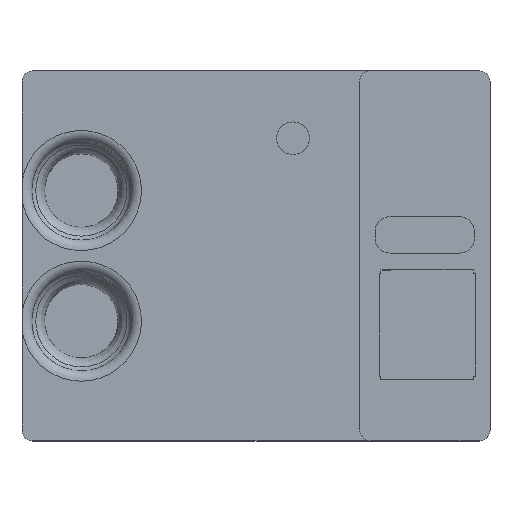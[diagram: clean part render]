
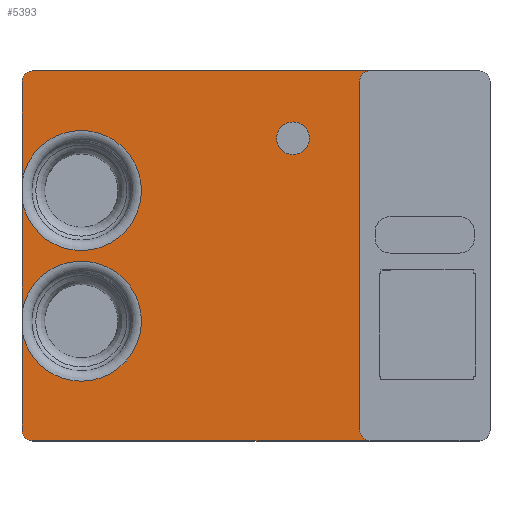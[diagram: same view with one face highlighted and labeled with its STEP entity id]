
A CAD part, top view. The second image highlights one B-rep face of the part: STEP entity #5393.
In plain terms, the highlighted planar face has unit normal (0, 0, 1).
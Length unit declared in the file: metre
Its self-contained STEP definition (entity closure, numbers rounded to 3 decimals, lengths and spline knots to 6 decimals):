
#103=PLANE('',#5703);
#288=B_SPLINE_CURVE_WITH_KNOTS('',3,(#12331,#12332,#12333,#12334,#12335),
 .UNSPECIFIED.,.F.,.F.,(4,1,4),(270.,315.,360.),.UNSPECIFIED.);
#675=LINE('',#12304,#1009);
#676=LINE('',#12309,#1010);
#677=LINE('',#12313,#1011);
#678=LINE('',#12317,#1012);
#679=LINE('',#12321,#1013);
#680=LINE('',#12325,#1014);
#681=LINE('',#12329,#1015);
#682=LINE('',#12337,#1016);
#1009=VECTOR('',#6449,1.);
#1010=VECTOR('',#6452,1.);
#1011=VECTOR('',#6455,1.);
#1012=VECTOR('',#6458,1.);
#1013=VECTOR('',#6461,1.);
#1014=VECTOR('',#6464,1.);
#1015=VECTOR('',#6467,1.);
#1016=VECTOR('',#6468,1.);
#1921=ORIENTED_EDGE('',*,*,#3273,.F.);
#1922=ORIENTED_EDGE('',*,*,#3274,.T.);
#1923=ORIENTED_EDGE('',*,*,#3275,.T.);
#1924=ORIENTED_EDGE('',*,*,#3276,.T.);
#1925=ORIENTED_EDGE('',*,*,#3277,.T.);
#1926=ORIENTED_EDGE('',*,*,#3278,.T.);
#1927=ORIENTED_EDGE('',*,*,#3279,.T.);
#1928=ORIENTED_EDGE('',*,*,#3280,.T.);
#1929=ORIENTED_EDGE('',*,*,#3281,.T.);
#1930=ORIENTED_EDGE('',*,*,#3282,.T.);
#1931=ORIENTED_EDGE('',*,*,#3283,.T.);
#1932=ORIENTED_EDGE('',*,*,#3284,.T.);
#1933=ORIENTED_EDGE('',*,*,#3285,.T.);
#1934=ORIENTED_EDGE('',*,*,#3286,.T.);
#1935=ORIENTED_EDGE('',*,*,#3287,.T.);
#1936=ORIENTED_EDGE('',*,*,#3288,.F.);
#1937=ORIENTED_EDGE('',*,*,#3271,.F.);
#3271=EDGE_CURVE('',#4049,#4049,#4516,.T.);
#3273=EDGE_CURVE('',#4051,#4052,#675,.F.);
#3274=EDGE_CURVE('',#4051,#4053,#4518,.T.);
#3275=EDGE_CURVE('',#4053,#4054,#676,.F.);
#3276=EDGE_CURVE('',#4054,#4055,#4519,.F.);
#3277=EDGE_CURVE('',#4055,#4056,#677,.T.);
#3278=EDGE_CURVE('',#4056,#4057,#4520,.F.);
#3279=EDGE_CURVE('',#4057,#4058,#678,.T.);
#3280=EDGE_CURVE('',#4058,#4059,#4521,.F.);
#3281=EDGE_CURVE('',#4059,#4060,#679,.T.);
#3282=EDGE_CURVE('',#4060,#4061,#4522,.F.);
#3283=EDGE_CURVE('',#4061,#4062,#680,.T.);
#3284=EDGE_CURVE('',#4062,#4063,#4523,.F.);
#3285=EDGE_CURVE('',#4063,#4064,#681,.F.);
#3286=EDGE_CURVE('',#4064,#4065,#288,.T.);
#3287=EDGE_CURVE('',#4065,#4066,#682,.F.);
#3288=EDGE_CURVE('',#4052,#4066,#4524,.F.);
#4049=VERTEX_POINT('',#12300);
#4051=VERTEX_POINT('',#12305);
#4052=VERTEX_POINT('',#12306);
#4053=VERTEX_POINT('',#12308);
#4054=VERTEX_POINT('',#12310);
#4055=VERTEX_POINT('',#12312);
#4056=VERTEX_POINT('',#12314);
#4057=VERTEX_POINT('',#12316);
#4058=VERTEX_POINT('',#12318);
#4059=VERTEX_POINT('',#12320);
#4060=VERTEX_POINT('',#12322);
#4061=VERTEX_POINT('',#12324);
#4062=VERTEX_POINT('',#12326);
#4063=VERTEX_POINT('',#12328);
#4064=VERTEX_POINT('',#12330);
#4065=VERTEX_POINT('',#12336);
#4066=VERTEX_POINT('',#12338);
#4516=CIRCLE('',#5701,0.0015);
#4518=CIRCLE('',#5704,0.001);
#4519=CIRCLE('',#5705,0.001);
#4520=CIRCLE('',#5706,0.005516);
#4521=CIRCLE('',#5707,0.005516);
#4522=CIRCLE('',#5708,0.001);
#4523=CIRCLE('',#5709,0.001);
#4524=CIRCLE('',#5710,0.001);
#4759=EDGE_LOOP('',(#1921,#1922,#1923,#1924,#1925,#1926,#1927,#1928,#1929,
#1930,#1931,#1932,#1933,#1934,#1935,#1936));
#4760=EDGE_LOOP('',(#1937));
#5046=FACE_BOUND('',#4759,.T.);
#5047=FACE_BOUND('',#4760,.T.);
#5393=ADVANCED_FACE('',(#5046,#5047),#103,.T.);
#5701=AXIS2_PLACEMENT_3D('',#12299,#6443,#6444);
#5703=AXIS2_PLACEMENT_3D('',#12303,#6447,#6448);
#5704=AXIS2_PLACEMENT_3D('',#12307,#6450,#6451);
#5705=AXIS2_PLACEMENT_3D('',#12311,#6453,#6454);
#5706=AXIS2_PLACEMENT_3D('',#12315,#6456,#6457);
#5707=AXIS2_PLACEMENT_3D('',#12319,#6459,#6460);
#5708=AXIS2_PLACEMENT_3D('',#12323,#6462,#6463);
#5709=AXIS2_PLACEMENT_3D('',#12327,#6465,#6466);
#5710=AXIS2_PLACEMENT_3D('',#12339,#6469,#6470);
#6443=DIRECTION('',(0.,0.,1.));
#6444=DIRECTION('',(0.,-1.,0.));
#6447=DIRECTION('',(0.,0.,1.));
#6448=DIRECTION('',(0.,-1.,0.));
#6449=DIRECTION('',(0.,1.,0.));
#6450=DIRECTION('',(0.,0.,-1.));
#6451=DIRECTION('',(0.,1.,0.));
#6452=DIRECTION('',(1.,0.,0.));
#6453=DIRECTION('',(0.,0.,-1.));
#6454=DIRECTION('',(0.,1.,0.));
#6455=DIRECTION('',(0.,-1.,0.));
#6456=DIRECTION('',(0.,0.,1.));
#6457=DIRECTION('',(0.,-1.,0.));
#6458=DIRECTION('',(0.,-1.,0.));
#6459=DIRECTION('',(0.,0.,1.));
#6460=DIRECTION('',(0.,-1.,0.));
#6461=DIRECTION('',(0.,-1.,0.));
#6462=DIRECTION('',(0.,0.,-1.));
#6463=DIRECTION('',(0.,1.,0.));
#6464=DIRECTION('',(1.,0.,0.));
#6465=DIRECTION('',(0.,0.,-1.));
#6466=DIRECTION('',(0.,1.,0.));
#6467=DIRECTION('',(0.,-1.,0.));
#6468=DIRECTION('',(1.,0.,0.));
#6469=DIRECTION('',(0.,0.,-1.));
#6470=DIRECTION('',(0.,1.,0.));
#12299=CARTESIAN_POINT('',(0.0034,0.010807,0.002));
#12300=CARTESIAN_POINT('',(0.0034,0.009307,0.002));
#12303=CARTESIAN_POINT('',(0.0205,0.016,0.002));
#12304=CARTESIAN_POINT('',(0.009518,0.,0.002));
#12305=CARTESIAN_POINT('',(0.009518,0.016007,0.002));
#12306=CARTESIAN_POINT('',(0.009518,-0.015993,0.002));
#12307=CARTESIAN_POINT('',(0.010518,0.016007,0.002));
#12308=CARTESIAN_POINT('',(0.0104,0.017,0.002));
#12309=CARTESIAN_POINT('',(0.0205,0.017,0.002));
#12310=CARTESIAN_POINT('',(-0.0205,0.017,0.002));
#12311=CARTESIAN_POINT('',(-0.0205,0.016,0.002));
#12312=CARTESIAN_POINT('',(-0.0215,0.016,0.002));
#12313=CARTESIAN_POINT('',(-0.0215,0.016,0.002));
#12314=CARTESIAN_POINT('',(-0.0215,0.006835,0.002));
#12315=CARTESIAN_POINT('',(-0.016047,0.006006,0.002));
#12316=CARTESIAN_POINT('',(-0.0215,0.005177,0.002));
#12317=CARTESIAN_POINT('',(-0.0215,0.016,0.002));
#12318=CARTESIAN_POINT('',(-0.0215,-0.005165,0.002));
#12319=CARTESIAN_POINT('',(-0.016047,-0.005994,0.002));
#12320=CARTESIAN_POINT('',(-0.0215,-0.006823,0.002));
#12321=CARTESIAN_POINT('',(-0.0215,0.016,0.002));
#12322=CARTESIAN_POINT('',(-0.0215,-0.016,0.002));
#12323=CARTESIAN_POINT('',(-0.0205,-0.016,0.002));
#12324=CARTESIAN_POINT('',(-0.0205,-0.017,0.002));
#12325=CARTESIAN_POINT('',(0.0205,-0.017,0.002));
#12326=CARTESIAN_POINT('',(0.0205,-0.017,0.002));
#12327=CARTESIAN_POINT('',(0.0205,-0.016,0.002));
#12328=CARTESIAN_POINT('',(0.0215,-0.016,0.002));
#12329=CARTESIAN_POINT('',(0.0215,0.016,0.002));
#12330=CARTESIAN_POINT('',(0.0215,-0.015993,0.002));
#12331=CARTESIAN_POINT('',(0.0215,-0.015993,0.002));
#12332=CARTESIAN_POINT('',(0.0215,-0.016229,0.002));
#12333=CARTESIAN_POINT('',(0.021296,-0.016789,0.002));
#12334=CARTESIAN_POINT('',(0.020736,-0.016993,0.002));
#12335=CARTESIAN_POINT('',(0.0205,-0.016993,0.002));
#12336=CARTESIAN_POINT('',(0.0205,-0.016993,0.002));
#12337=CARTESIAN_POINT('',(0.0205,-0.016993,0.002));
#12338=CARTESIAN_POINT('',(0.010518,-0.016993,0.002));
#12339=CARTESIAN_POINT('',(0.010518,-0.015993,0.002));
